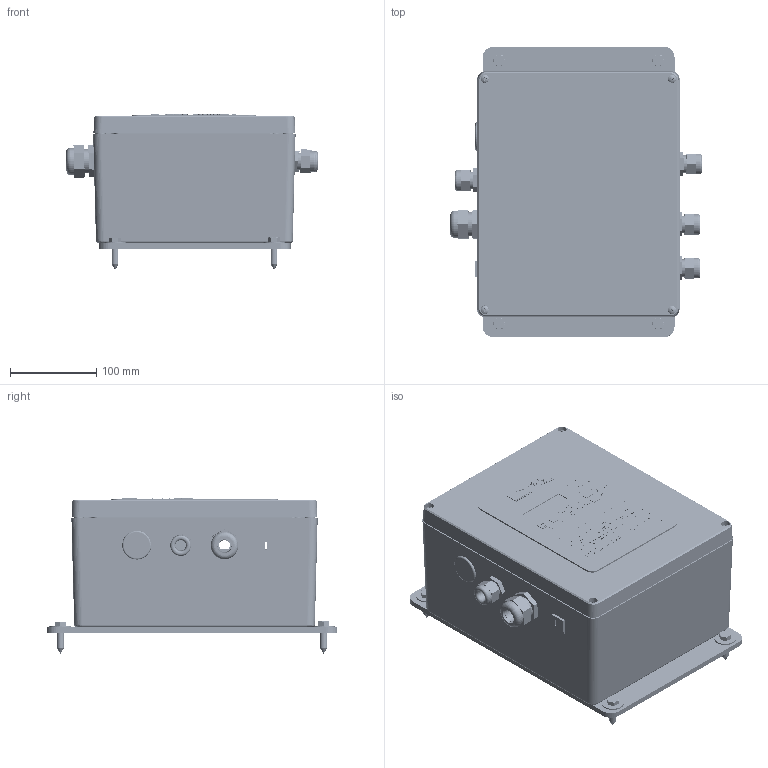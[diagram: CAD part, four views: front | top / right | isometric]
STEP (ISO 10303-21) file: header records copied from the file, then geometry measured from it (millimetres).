
FILE_DESCRIPTION(/* description */ (''),/* implementation_level */ '2;1');
FILE_NAME(/* name */ 'E:\Engineering\SRC\Leisure Marine, Product Development\2- STANDARD UNITS\HRO-MODULAR UNITS\H25M SEAFARI VERSATILE MODULAR W-TRANS\H586250001 MAIN, ENCLOSURE, ASSY.stp',/* time_stamp */ '2015-10-20T15:48:12-07:00',/* author */ ('515746'),/* organization */ (''),/* preprocessor_version */ 'ST-DEVELOPER v15.2',/* originating_system */ 'Autodesk Inventor 2014',/* authorisation */ '');
FILE_SCHEMA (('CONFIG_CONTROL_DESIGN'));
Products named in the file (2): H586250001 MAIN, ENCLOSURE, ASSY_Substitute_1; H586250001 MAIN, ENCLOSURE, ASSY
Bounding box: 291.88 x 336.55 x 180.36 mm (x, y, z)
Volume: 2280593.3 mm3; surface area: 937511 mm2
Topology: 29 solids, 30 shells, 9232 faces, 25447 edges, 17118 vertices
Faces by surface type: plane 5069, bspline 3399, cylinder 481, cone 221, torus 50, sphere 12
Full cylindrical faces by diameter (mm): 2.3 x4, 3.969 x4, 4.9 x4, 5 x4, 5.556 x4, 7.144 x8, 7.2 x4, 7.938 x60, 8.731 x4, 9.474 x4, 9.525 x4, 10.3 x4, 11.112 x4, 11.2 x4, 12.7 x8, 13.494 x3, 16.51 x1, 16.662 x4, 17.78 x1, 20.142 x12, 21.336 x1, 22.86 x3, 23.901 x4, 25.4 x4, 26.67 x1, 27.432 x1, 27.559 x1, 27.94 x1, 29.21 x2, 29.464 x1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
Entity records: 466217 total; most frequent: CARTESIAN_POINT 247962, ORIENTED_EDGE 50124, DIRECTION 30279, EDGE_CURVE 25062, VERTEX_POINT 17070, LINE 15751, VECTOR 15751, EDGE_LOOP 10508
